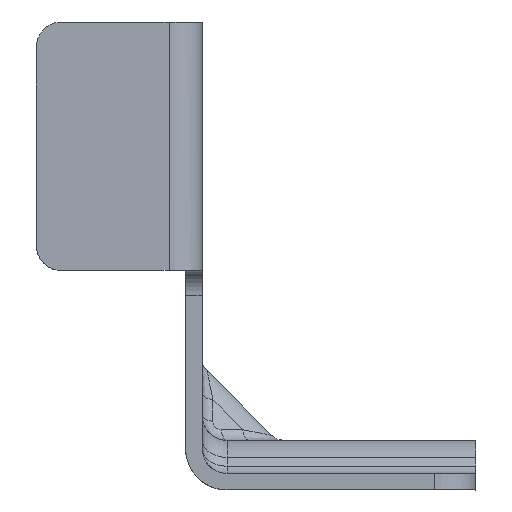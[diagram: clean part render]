
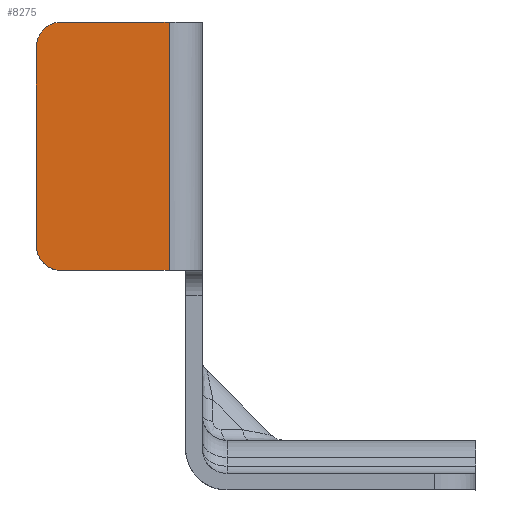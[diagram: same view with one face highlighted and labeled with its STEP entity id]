
A CAD part, front view. The second image highlights one B-rep face of the part: STEP entity #8275.
In plain terms, the highlighted planar face has unit normal (0, -1, 0).
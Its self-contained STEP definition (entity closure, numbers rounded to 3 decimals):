
#8233=AXIS2_PLACEMENT_3D('Circle Axis2P3D',#8231,#8232,$) ;
#8246=AXIS2_PLACEMENT_3D('Plane Axis2P3D',#8243,#8244,#8245) ;
#8257=AXIS2_PLACEMENT_3D('Circle Axis2P3D',#8255,#8256,$) ;
#4514=CARTESIAN_POINT('Vertex',(1458.999,-742.499,76.5)) ;
#4517=CARTESIAN_POINT('Line Origine',(1465.499,-742.499,76.5)) ;
#4521=CARTESIAN_POINT('Vertex',(1471.999,-742.499,76.5)) ;
#4562=CARTESIAN_POINT('Vertex',(1471.999,-742.499,46.5)) ;
#4565=CARTESIAN_POINT('Line Origine',(1471.999,-742.499,49.25)) ;
#8228=CARTESIAN_POINT('Vertex',(1455.999,-742.499,73.5)) ;
#8231=CARTESIAN_POINT('Axis2P3D Location',(1458.999,-742.499,73.5)) ;
#8243=CARTESIAN_POINT('Axis2P3D Location',(1490.999,-742.499,76.5)) ;
#8248=CARTESIAN_POINT('Line Origine',(1455.999,-742.499,61.5)) ;
#8252=CARTESIAN_POINT('Vertex',(1455.999,-742.499,49.5)) ;
#8255=CARTESIAN_POINT('Axis2P3D Location',(1458.999,-742.499,49.5)) ;
#8259=CARTESIAN_POINT('Vertex',(1458.999,-742.499,46.5)) ;
#8262=CARTESIAN_POINT('Line Origine',(1465.499,-742.499,46.5)) ;
#4518=DIRECTION('Vector Direction',(-1.,0.,0.)) ;
#4566=DIRECTION('Vector Direction',(0.,0.,-1.)) ;
#8232=DIRECTION('Axis2P3D Direction',(0.,1.,0.)) ;
#8244=DIRECTION('Axis2P3D Direction',(0.,1.,0.)) ;
#8245=DIRECTION('Axis2P3D XDirection',(0.,0.,-1.)) ;
#8249=DIRECTION('Vector Direction',(0.,0.,-1.)) ;
#8256=DIRECTION('Axis2P3D Direction',(0.,1.,0.)) ;
#8263=DIRECTION('Vector Direction',(1.,0.,0.)) ;
#4519=VECTOR('Line Direction',#4518,1.) ;
#4567=VECTOR('Line Direction',#4566,1.) ;
#8250=VECTOR('Line Direction',#8249,1.) ;
#8264=VECTOR('Line Direction',#8263,1.) ;
#8268=ORIENTED_EDGE('',*,*,#8235,.F.) ;
#8269=ORIENTED_EDGE('',*,*,#8254,.T.) ;
#8270=ORIENTED_EDGE('',*,*,#8261,.F.) ;
#8271=ORIENTED_EDGE('',*,*,#8266,.T.) ;
#8272=ORIENTED_EDGE('',*,*,#4569,.F.) ;
#8273=ORIENTED_EDGE('',*,*,#4523,.T.) ;
#8275=ADVANCED_FACE('\X2\51E04F554F53\X0\.31',(#8274),#8247,.F.) ;
#8234=CIRCLE('generated circle',#8233,3.) ;
#8258=CIRCLE('generated circle',#8257,3.) ;
#4523=EDGE_CURVE('',#4522,#4515,#4520,.T.) ;
#4569=EDGE_CURVE('',#4522,#4563,#4568,.T.) ;
#8235=EDGE_CURVE('',#8229,#4515,#8234,.T.) ;
#8254=EDGE_CURVE('',#8229,#8253,#8251,.T.) ;
#8261=EDGE_CURVE('',#8260,#8253,#8258,.T.) ;
#8266=EDGE_CURVE('',#8260,#4563,#8265,.T.) ;
#8267=EDGE_LOOP('',(#8268,#8269,#8270,#8271,#8272,#8273)) ;
#8274=FACE_OUTER_BOUND('',#8267,.T.) ;
#4520=LINE('Line',#4517,#4519) ;
#4568=LINE('Line',#4565,#4567) ;
#8251=LINE('Line',#8248,#8250) ;
#8265=LINE('Line',#8262,#8264) ;
#8247=PLANE('Plane',#8246) ;
#4515=VERTEX_POINT('',#4514) ;
#4522=VERTEX_POINT('',#4521) ;
#4563=VERTEX_POINT('',#4562) ;
#8229=VERTEX_POINT('',#8228) ;
#8253=VERTEX_POINT('',#8252) ;
#8260=VERTEX_POINT('',#8259) ;
